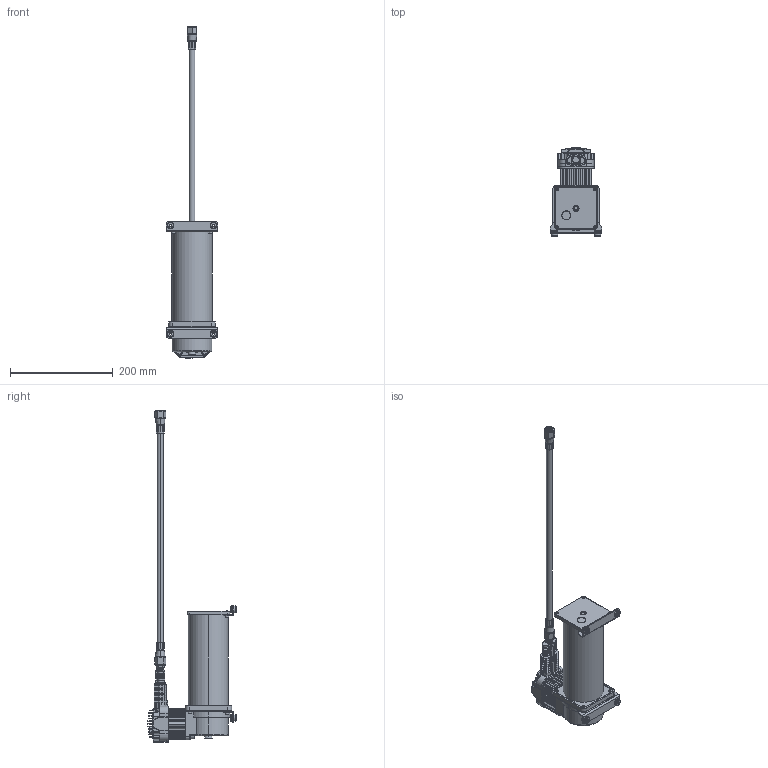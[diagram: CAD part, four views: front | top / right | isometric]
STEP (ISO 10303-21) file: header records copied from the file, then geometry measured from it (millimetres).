
FILE_DESCRIPTION (( 'STEP AP214' ), '1' );
FILE_NAME ('PLM-AP-LV-24VDC with hose.STEP', '2015-11-06T19:12:58', ( '' ), ( '' ), 'SwSTEP 2.0', 'SolidWorks 2016', '' );
FILE_SCHEMA (( 'AUTOMOTIVE_DESIGN' ));
Length unit declared in the file: inch
Products named in the file (12): socket head cap screw_ai_HX-SHCS 0.164-32x0.4375x0.4375-S; socket head cap screw_ai_HX-SHCS 0.164-32x0.5x0.5-S; socket head cap screw_ai_HX-SHCS 0.164-32x0.375x0.375-S; socket head cap screw_ai_HX-SHCS 0.125-44x0.125x0.125-N; flat washer type b regular_ai_Regular FW 0.125; PLM-AP-LV-24VDC Hose; PLM-AP-LV-24VDC Hose Connector; PLM-AP-LV-24VDC Top_Hose; PLM-AP-LV-24VDC Front; PLM-AP-LV-24VDC Foot; PLM-AP-LV-24VDC Main Body; PLM-AP-LV-24VDC with hose
Assembly tree (21 placements, depth 2):
  PLM-AP-LV-24VDC with hose
    PLM-AP-LV-24VDC Main Body
    PLM-AP-LV-24VDC Foot  x2
    PLM-AP-LV-24VDC Front
    PLM-AP-LV-24VDC Top_Hose
    PLM-AP-LV-24VDC Hose Connector
    PLM-AP-LV-24VDC Hose
    flat washer type b regular_ai_Regular FW 0.125  x4
    socket head cap screw_ai_HX-SHCS 0.125-44x0.125x0.125-N  x4
    socket head cap screw_ai_HX-SHCS 0.164-32x0.375x0.375-S  x2
    socket head cap screw_ai_HX-SHCS 0.164-32x0.5x0.5-S  x2
    socket head cap screw_ai_HX-SHCS 0.164-32x0.4375x0.4375-S  x2
Bounding box: 100.33 x 171.41 x 645.06 mm (x, y, z)
Volume: 1562164.5 mm3; surface area: 210353.6 mm2
Topology: 32 solids, 32 shells, 2313 faces, 6041 edges, 3814 vertices
Faces by surface type: cylinder 851, plane 772, cone 408, bspline 148, torus 134
Entity records: 75603 total; most frequent: CARTESIAN_POINT 26083, ORIENTED_EDGE 9702, DIRECTION 9302, EDGE_CURVE 4851, AXIS2_PLACEMENT_3D 3426, VERTEX_POINT 3094, LINE 2450, VECTOR 2450
